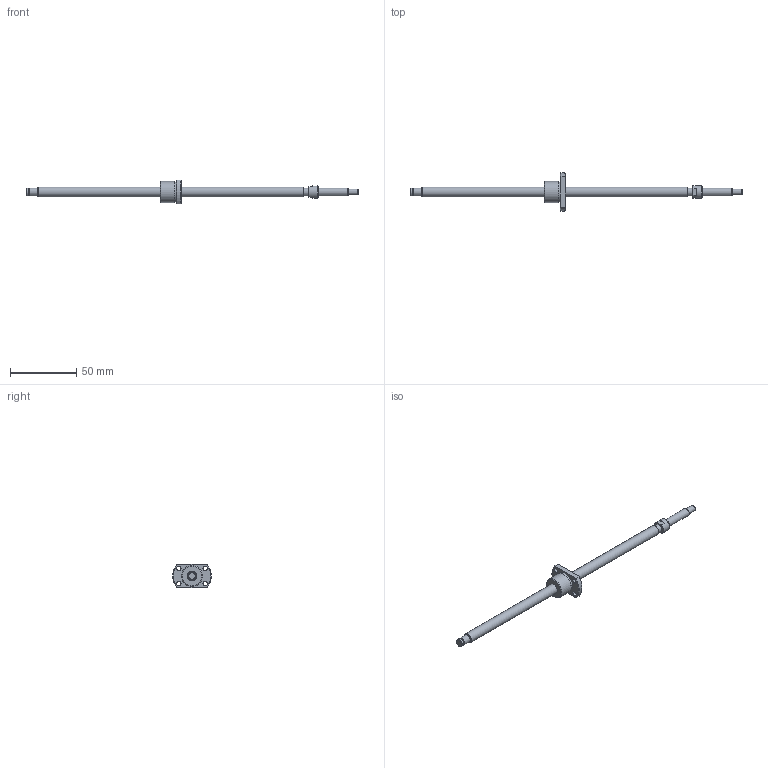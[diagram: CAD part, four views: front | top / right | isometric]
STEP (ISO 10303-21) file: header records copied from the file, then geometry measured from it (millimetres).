
FILE_DESCRIPTION(/* description */ ('STEP AP214'),/* implementation_level */ '2;1');
FILE_NAME(/* name */ 'SG0802.5-200R250C5B0X(92)',/* time_stamp */ '2026-07-21T16:48:06+02:00',/* author */ ('License CC BY-ND 4.0'),/* organization */ ('CADENAS'),/* preprocessor_version */ 'ST-DEVELOPER v20',/* originating_system */ 'PARTsolutions',/* authorisation */ ' ');
FILE_SCHEMA (('AUTOMOTIVE_DESIGN {1 0 10303 214 3 1 1}'));
Length unit declared in the file: millimetre
Products named in the file (3): SG0802.5-200R250C5B0X(92); SG0802.5-200R250C5B_shaft; SG0802.5 C5_nut
Assembly tree (2 placements, depth 2):
  SG0802.5-200R250C5B0X(92)
    SG0802.5-200R250C5B_shaft
    SG0802.5 C5_nut
Bounding box: 250 x 29 x 18 mm (x, y, z)
Volume: 13840.5 mm3; surface area: 8133 mm2
Topology: 2 solids, 2 shells, 51 faces, 104 edges, 67 vertices
Faces by surface type: plane 21, cylinder 19, cone 10, torus 1
Full cylindrical faces by diameter (mm): 3.4 x4, 4.5 x1, 5.7 x1, 6 x4, 7.5 x2, 9.5 x1, 15.7 x1, 16 x1
Entity records: 1338 total; most frequent: DIRECTION 233, CARTESIAN_POINT 225, ORIENTED_EDGE 162, AXIS2_PLACEMENT_3D 106, EDGE_LOOP 93, FACE_BOUND 93, EDGE_CURVE 81, VERTEX_POINT 66
